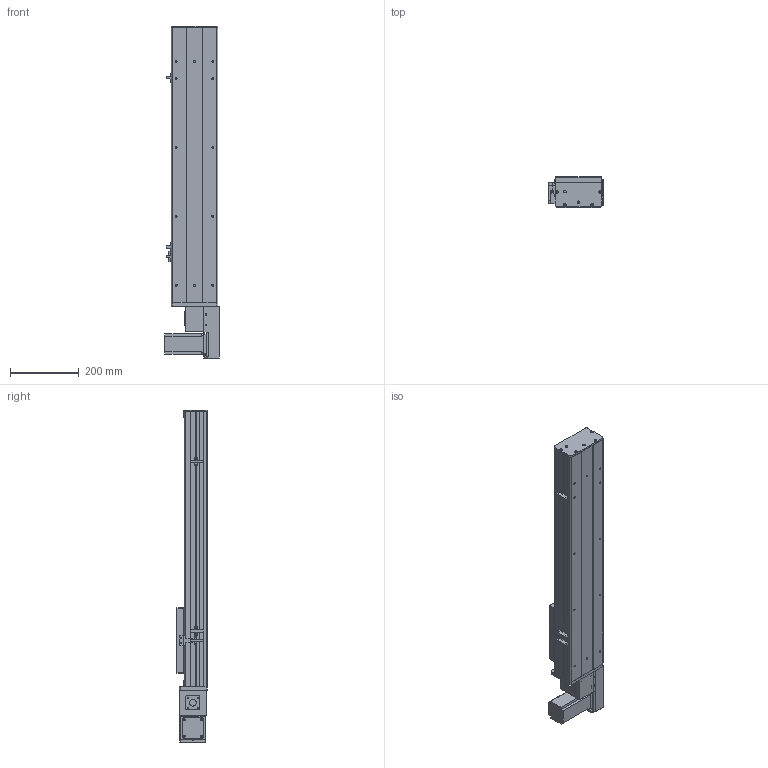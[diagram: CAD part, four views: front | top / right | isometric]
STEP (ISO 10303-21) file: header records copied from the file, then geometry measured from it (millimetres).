
FILE_DESCRIPTION (( 'STEP AP203' ), '1' );
FILE_NAME ('Y135CB-D90-S500-BL-P400W.STEP', '2020-02-17T08:27:48', ( '微软用户' ), ( '微软中国' ), 'SwSTEP 2.0', 'SolidWorks 2017', '' );
FILE_SCHEMA (( 'CONFIG_CONTROL_DESIGN' ));
Length unit declared in the file: millimetre
Products named in the file (18): Y135C-陔俋离換覜結え-; 0B-埴倛裔啣; 5C--俋欶; 0B-源倛裔啣; C-雄赽釱--; 0B-萇儂楊擘啣; Y135CB-耜裔; Y135CB-D90-S500-BL-P400W; san松下电机400不带刹车----; 135CB---遴掛极.-; 5CB --掛极耜裔啣-; 35CB---喘謫眊楊擘啣; C-詩湍揤踡え-陔; Y10B--々湍喘謫眊--666; 135CB--詩湍-CE; Y10B-耜蚾蟀諉啣----; Y100-135俋离換覜ん--; Y俋欶BR----
Assembly tree (21 placements, depth 2):
  Y135CB-D90-S500-BL-P400W
    Y135CB-耜裔
    135CB---遴掛极.-
    35CB---喘謫眊楊擘啣
    Y10B--々湍喘謫眊--666
    Y10B-耜蚾蟀諉啣----
    Y俋欶BR----
    0B-埴倛裔啣
    0B-源倛裔啣
    0B-萇儂楊擘啣
    san松下电机400不带刹车----
    5CB --掛极耜裔啣-  x2
    C-詩湍揤踡え-陔  x2
    135CB--詩湍-CE
    Y100-135俋离換覜ん--  x3
    Y135C-陔俋离換覜結え-
    5C--俋欶
    C-雄赽釱--
Bounding box: 157.5 x 91 x 964.5 mm (x, y, z)
Volume: 3088732.8 mm3; surface area: 1196116.2 mm2
Topology: 21 solids, 21 shells, 937 faces, 2491 edges, 1650 vertices
Faces by surface type: cylinder 463, plane 458, cone 16
Entity records: 28937 total; most frequent: DIRECTION 4803, CARTESIAN_POINT 4724, ORIENTED_EDGE 4458, EDGE_CURVE 2229, AXIS2_PLACEMENT_3D 1745, VERTEX_POINT 1478, LINE 1313, VECTOR 1313
